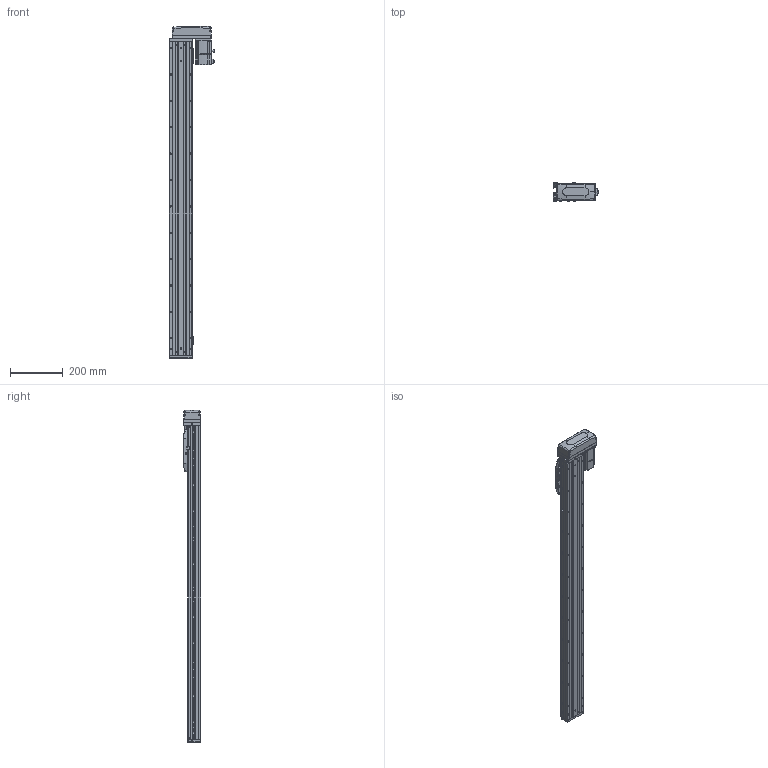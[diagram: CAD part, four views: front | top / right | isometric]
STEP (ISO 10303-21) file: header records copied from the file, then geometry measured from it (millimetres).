
FILE_DESCRIPTION (( 'STEP AP203' ), '1' );
FILE_NAME ('CTHA86-1000-BL-M20-C4L.step', '2022-04-26T00:49:46', ( '微软用户' ), ( '微软中国' ), 'SwSTEP 2.0', 'SolidWorks 2020', '' );
FILE_SCHEMA (( 'CONFIG_CONTROL_DESIGN' ));
Length unit declared in the file: millimetre
Products named in the file (21): CTHA60-017; CTHA60-016; CTHA86-033; CTHA60-021; _X2_4E0983F1_X0_200W_1; CTHA86-1000-BL-M20-C4L; KTHA86-001_1190; GBT77-2000 M3×3; CTHA86-002; KTHA86-004; GBT 70.1-M3×20; CTHA86-031; KTHA86-005; GBT70.1 M5℅16; CTHA86-030; GB¨uT 70.2-M3¡Á5_M3¡Á6; GBT 70.1-M3×16; GBT 70.3-M3℅6; EE_SX911P_R; GBT 70.1-M3℅6; CTHA86-015-1_CTHA86-015-2
Assembly tree (66 placements, depth 2):
  CTHA86-1000-BL-M20-C4L
    KTHA86-001_1190
    KTHA86-004
    KTHA86-005
    GB¨uT 70.2-M3¡Á5_M3¡Á6  x10
    EE_SX911P_R  x3
    CTHA60-017  x3
    CTHA60-021  x2
    GBT77-2000 M3×3  x6
    GBT 70.1-M3×20
    GBT70.1 M5℅16  x14
    GBT 70.1-M3×16  x5
    GBT 70.1-M3℅6  x6
    CTHA60-016  x2
    _X2_4E0983F1_X0_200W_1
    CTHA86-002
    CTHA86-031
    CTHA86-030  x2
    GBT 70.3-M3℅6  x4
    CTHA86-015-1_CTHA86-015-2
    CTHA86-033
Bounding box: 172.7 x 68 x 1259 mm (x, y, z)
Volume: 4649164.1 mm3; surface area: 789836.2 mm2
Topology: 68 solids, 68 shells, 2866 faces, 6876 edges, 4240 vertices
Faces by surface type: plane 1511, cylinder 747, cone 377, torus 132, bspline 75, sphere 24
Entity records: 51665 total; most frequent: CARTESIAN_POINT 9955, DIRECTION 8069, ORIENTED_EDGE 7852, EDGE_CURVE 3926, AXIS2_PLACEMENT_3D 2738, VECTOR 2593, LINE 2593, VERTEX_POINT 2472
